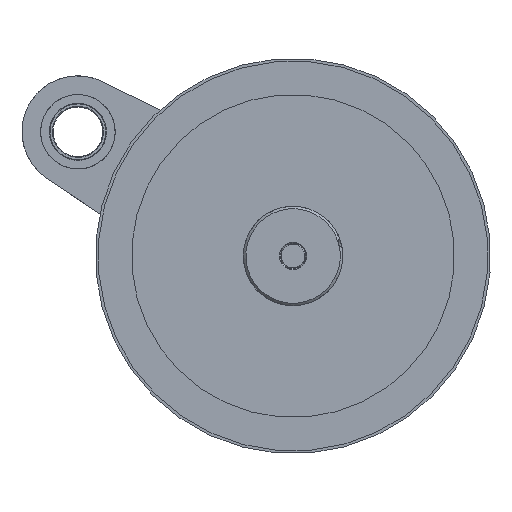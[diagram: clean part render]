
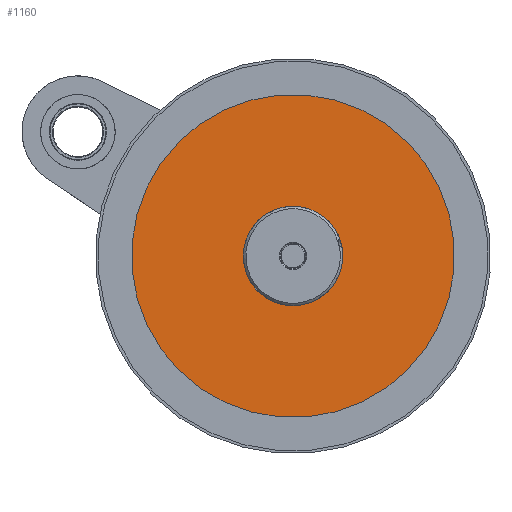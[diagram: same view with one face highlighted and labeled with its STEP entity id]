
A CAD part, left-side view. The second image highlights one B-rep face of the part: STEP entity #1160.
In plain terms, the highlighted planar face has unit normal (-1, 0, 0).
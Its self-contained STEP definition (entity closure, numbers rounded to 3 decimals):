
#1160 = ADVANCED_FACE( '', ( #2850, #2851 ), #2852, .T. );
#2850 = FACE_OUTER_BOUND( '', #5954, .T. );
#2851 = FACE_BOUND( '', #5955, .T. );
#2852 = PLANE( '', #5956 );
#5954 = EDGE_LOOP( '', ( #10077 ) );
#5955 = EDGE_LOOP( '', ( #10078 ) );
#5956 = AXIS2_PLACEMENT_3D( '', #10079, #10080, #10081 );
#10077 = ORIENTED_EDGE( '', *, *, #14022, .F. );
#10078 = ORIENTED_EDGE( '', *, *, #14023, .T. );
#10079 = CARTESIAN_POINT( '', ( -34.742, -62.751, 16.949 ) );
#10080 = DIRECTION( '', ( -1., 0., 0. ) );
#10081 = DIRECTION( '', ( 0., -0.261, -0.965 ) );
#14022 = EDGE_CURVE( '', #16349, #16349, #16350, .T. );
#14023 = EDGE_CURVE( '', #16351, #16351, #16352, .T. );
#16349 = VERTEX_POINT( '', #20305 );
#16350 = CIRCLE( '', #20306, 65. );
#16351 = VERTEX_POINT( '', #20307 );
#16352 = CIRCLE( '', #20308, 20. );
#20305 = CARTESIAN_POINT( '', ( -34.742, -62.751, 16.949 ) );
#20306 = AXIS2_PLACEMENT_3D( '', #23904, #23905, #23906 );
#20307 = CARTESIAN_POINT( '', ( -34.742, -19.308, 5.215 ) );
#20308 = AXIS2_PLACEMENT_3D( '', #23907, #23908, #23909 );
#23904 = CARTESIAN_POINT( '', ( -34.742, 0., 0. ) );
#23905 = DIRECTION( '', ( 1., 0., 0. ) );
#23906 = DIRECTION( '', ( 0., -0.965, 0.261 ) );
#23907 = CARTESIAN_POINT( '', ( -34.742, 0., 0. ) );
#23908 = DIRECTION( '', ( 1., 0., 0. ) );
#23909 = DIRECTION( '', ( 0., -0.965, 0.261 ) );
